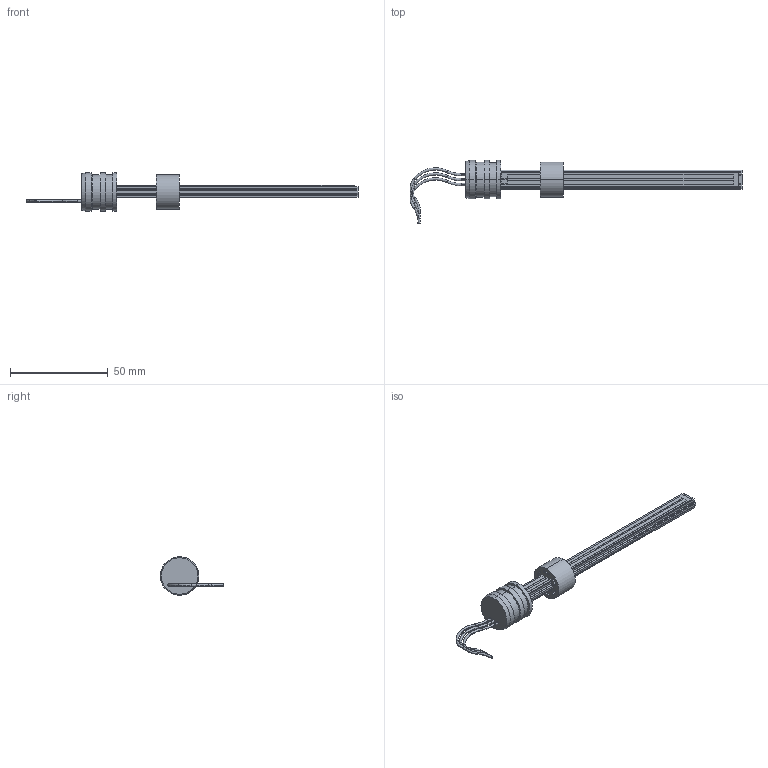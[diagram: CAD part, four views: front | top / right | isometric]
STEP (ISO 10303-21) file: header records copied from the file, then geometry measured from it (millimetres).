
FILE_DESCRIPTION (( 'STEP AP203' ), '1' );
FILE_NAME ('PS6502-regal.step', '2009-04-08T07:03:53', ( 'Gustaf Hederström' ), ( 'Cevican AB' ), 'SwSTEP 2.0', 'SolidWorks 2002308', '' );
FILE_SCHEMA (( 'CONFIG_CONTROL_DESIGN' ));
Length unit declared in the file: millimetre
Products named in the file (3): PS6502-regal; 30-0027_SW0001_6502; WIPER6500-1
Assembly tree (2 placements, depth 2):
  PS6502-regal
    30-0027_SW0001_6502
    WIPER6500-1
Bounding box: 169.62 x 32.31 x 19.7 mm (x, y, z)
Volume: 12977.9 mm3; surface area: 8673.5 mm2
Topology: 2 solids, 3 shells, 207 faces, 560 edges, 359 vertices
Faces by surface type: plane 92, cylinder 76, bspline 35, cone 4
Entity records: 8104 total; most frequent: CARTESIAN_POINT 2588, ORIENTED_EDGE 1120, DIRECTION 1082, EDGE_CURVE 560, AXIS2_PLACEMENT_3D 387, VERTEX_POINT 359, LINE 308, VECTOR 308
